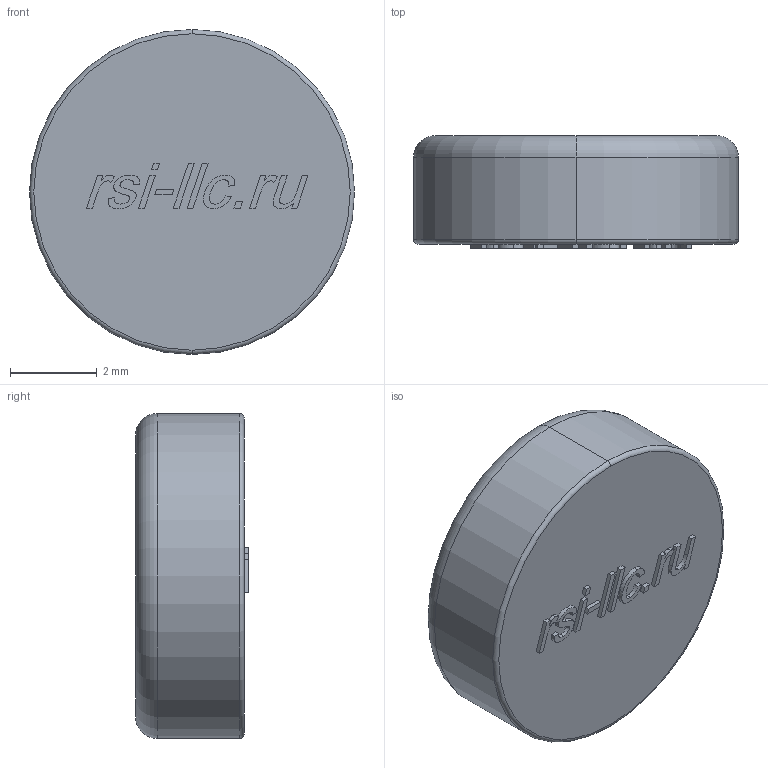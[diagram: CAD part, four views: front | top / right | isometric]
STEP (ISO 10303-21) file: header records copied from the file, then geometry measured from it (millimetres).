
FILE_DESCRIPTION (( 'STEP AP214' ), '1' );
FILE_NAME ('CAP-TRH-15.STEP', '2020-10-08T13:35:14', ( '' ), ( '' ), 'SwSTEP 2.0', 'SolidWorks 2018', '' );
FILE_SCHEMA (( 'AUTOMOTIVE_DESIGN' ));
Length unit declared in the file: millimetre
Products named in the file (1): CAP-TRH-15
Bounding box: 7.5 x 2.6 x 7.5 mm (x, y, z)
Volume: 73.7 mm3; surface area: 169.6 mm2
Topology: 1 solids, 1 shells, 105 faces, 269 edges, 178 vertices
Faces by surface type: plane 65, bspline 32, torus 4, cylinder 4
Entity records: 4921 total; most frequent: CARTESIAN_POINT 2537, ORIENTED_EDGE 538, DIRECTION 369, EDGE_CURVE 269, VECTOR 189, LINE 189, VERTEX_POINT 178, EDGE_LOOP 117
